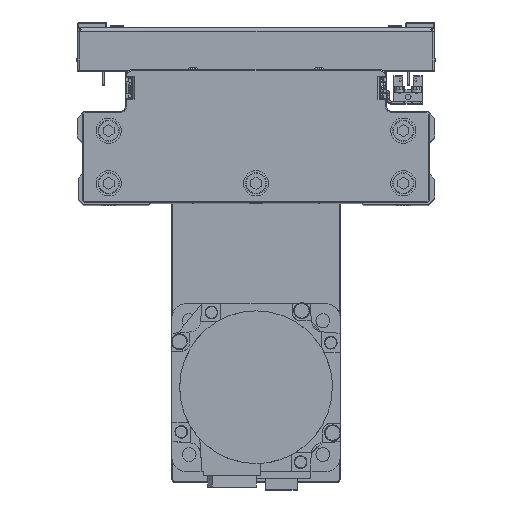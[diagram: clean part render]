
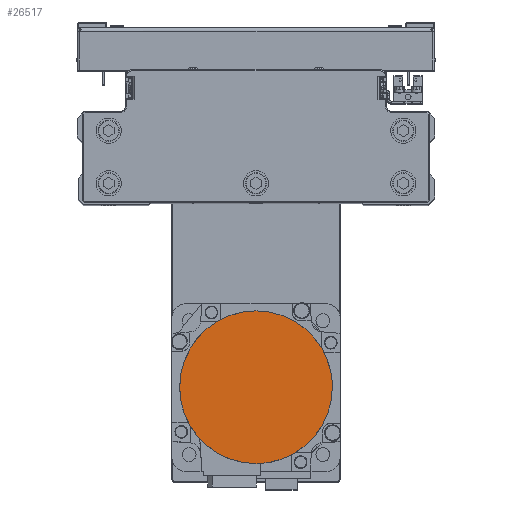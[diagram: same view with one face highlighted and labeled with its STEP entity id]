
A CAD part, top view. The second image highlights one B-rep face of the part: STEP entity #26517.
In plain terms, the highlighted planar face has unit normal (0, 0, 1) as drawn and (0, 0, -1) by its records, which use the part's own axes.
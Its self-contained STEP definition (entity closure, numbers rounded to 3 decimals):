
#445 = CARTESIAN_POINT ( 'NONE',  ( 0., 0., -122.2 ) ) ;
#883 = EDGE_LOOP ( 'NONE', ( #26571, #30147, #39719, #35261 ) ) ;
#913 = B_SPLINE_CURVE_WITH_KNOTS ( 'NONE', 3,
 ( #2326, #15861, #29423, #42954, #12533, #26100, #39620, #9210, #22760, #36295, #5886, #19420, #32958, #2545, #16090, #29647, #43170, #12743 ),
 .UNSPECIFIED., .F., .F.,
 ( 4, 2, 2, 2, 2, 2, 2, 2, 4 ),
 ( 0., 0.125, 0.25, 0.375, 0.5, 0.625, 0.75, 0.875, 1. ),
 .UNSPECIFIED. ) ;
#1223 = CIRCLE ( 'NONE', #6900, 36.3 ) ;
#1296 = CARTESIAN_POINT ( 'NONE',  ( -11.696, 34.446, -122.2 ) ) ;
#1508 = CARTESIAN_POINT ( 'NONE',  ( -36.3, 0., -122.2 ) ) ;
#1871 = CARTESIAN_POINT ( 'NONE',  ( 0., 0., -122.2 ) ) ;
#2326 = CARTESIAN_POINT ( 'NONE',  ( -36.3, 0., -122.2 ) ) ;
#2545 = CARTESIAN_POINT ( 'NONE',  ( -11.696, -34.446, -122.2 ) ) ;
#2666 = DIRECTION ( 'NONE',  ( 1., 0., 0. ) ) ;
#4636 = CARTESIAN_POINT ( 'NONE',  ( -2.376, 36.3, -122.2 ) ) ;
#4855 = CARTESIAN_POINT ( 'NONE',  ( -35.139, 9.412, -122.2 ) ) ;
#5886 = CARTESIAN_POINT ( 'NONE',  ( -22.143, -28.862, -122.2 ) ) ;
#6000 = PLANE ( 'NONE',  #38117 ) ;
#6900 = AXIS2_PLACEMENT_3D ( 'NONE', #445, #13977, #27538 ) ;
#7125 = VERTEX_POINT ( 'NONE', #12939 ) ;
#8183 = CARTESIAN_POINT ( 'NONE',  ( -31.502, 18.192, -122.2 ) ) ;
#8567 = EDGE_CURVE ( 'NONE', #9942, #13825, #913, .T. ) ;
#8716 = VERTEX_POINT ( 'NONE', #23848 ) ;
#9210 = CARTESIAN_POINT ( 'NONE',  ( -28.862, -22.143, -122.2 ) ) ;
#9942 = VERTEX_POINT ( 'NONE', #33405 ) ;
#10994 = EDGE_CURVE ( 'NONE', #8716, #9942, #16682, .T. ) ;
#11501 = CARTESIAN_POINT ( 'NONE',  ( -23.988, 27.348, -122.2 ) ) ;
#12533 = CARTESIAN_POINT ( 'NONE',  ( -34.446, -11.696, -122.2 ) ) ;
#12743 = CARTESIAN_POINT ( 'NONE',  ( 0., -36.3, -122.2 ) ) ;
#12939 = CARTESIAN_POINT ( 'NONE',  ( 36.3, 0., -122.2 ) ) ;
#13825 = VERTEX_POINT ( 'NONE', #25292 ) ;
#13977 = DIRECTION ( 'NONE',  ( 0., 0., 1. ) ) ;
#14833 = CARTESIAN_POINT ( 'NONE',  ( -16.086, 32.628, -122.2 ) ) ;
#15416 = DIRECTION ( 'NONE',  ( 0., 0., 1. ) ) ;
#15861 = CARTESIAN_POINT ( 'NONE',  ( -36.3, -2.376, -122.2 ) ) ;
#16090 = CARTESIAN_POINT ( 'NONE',  ( -9.412, -35.139, -122.2 ) ) ;
#16682 = B_SPLINE_CURVE_WITH_KNOTS ( 'NONE', 3,
 ( #35052, #4636, #18176, #31718, #1296, #14833, #28386, #41916, #11501, #25061, #38590, #8183, #21737, #35279, #4855, #18392, #31931, #1508 ),
 .UNSPECIFIED., .F., .F.,
 ( 4, 2, 2, 2, 2, 2, 2, 2, 4 ),
 ( 0., 0.125, 0.25, 0.375, 0.5, 0.625, 0.75, 0.875, 1. ),
 .UNSPECIFIED. ) ;
#18176 = CARTESIAN_POINT ( 'NONE',  ( -4.752, 36.066, -122.2 ) ) ;
#18392 = CARTESIAN_POINT ( 'NONE',  ( -36.066, 4.752, -122.2 ) ) ;
#19420 = CARTESIAN_POINT ( 'NONE',  ( -18.192, -31.502, -122.2 ) ) ;
#19539 = CARTESIAN_POINT ( 'NONE',  ( 0., 0., -122.2 ) ) ;
#21737 = CARTESIAN_POINT ( 'NONE',  ( -32.628, 16.086, -122.2 ) ) ;
#22760 = CARTESIAN_POINT ( 'NONE',  ( -27.348, -23.988, -122.2 ) ) ;
#23848 = CARTESIAN_POINT ( 'NONE',  ( 0., 36.3, -122.2 ) ) ;
#23952 = AXIS2_PLACEMENT_3D ( 'NONE', #1871, #15416, #28971 ) ;
#25061 = CARTESIAN_POINT ( 'NONE',  ( -27.348, 23.988, -122.2 ) ) ;
#25292 = CARTESIAN_POINT ( 'NONE',  ( 0., -36.3, -122.2 ) ) ;
#26100 = CARTESIAN_POINT ( 'NONE',  ( -32.628, -16.086, -122.2 ) ) ;
#26517 = ADVANCED_FACE ( 'NONE', ( #36407 ), #6000, .F. ) ;
#26571 = ORIENTED_EDGE ( 'NONE', *, *, #33325, .F. ) ;
#27538 = DIRECTION ( 'NONE',  ( -1., 0., 0. ) ) ;
#28386 = CARTESIAN_POINT ( 'NONE',  ( -18.192, 31.502, -122.2 ) ) ;
#28971 = DIRECTION ( 'NONE',  ( -1., 0., 0. ) ) ;
#29423 = CARTESIAN_POINT ( 'NONE',  ( -36.066, -4.752, -122.2 ) ) ;
#29647 = CARTESIAN_POINT ( 'NONE',  ( -4.752, -36.066, -122.2 ) ) ;
#30147 = ORIENTED_EDGE ( 'NONE', *, *, #8567, .F. ) ;
#31718 = CARTESIAN_POINT ( 'NONE',  ( -9.412, 35.139, -122.2 ) ) ;
#31931 = CARTESIAN_POINT ( 'NONE',  ( -36.3, 2.376, -122.2 ) ) ;
#32958 = CARTESIAN_POINT ( 'NONE',  ( -16.086, -32.628, -122.2 ) ) ;
#33083 = DIRECTION ( 'NONE',  ( 0., 0., 1. ) ) ;
#33325 = EDGE_CURVE ( 'NONE', #13825, #7125, #1223, .T. ) ;
#33405 = CARTESIAN_POINT ( 'NONE',  ( -36.3, 0., -122.2 ) ) ;
#35052 = CARTESIAN_POINT ( 'NONE',  ( 0., 36.3, -122.2 ) ) ;
#35261 = ORIENTED_EDGE ( 'NONE', *, *, #35416, .F. ) ;
#35279 = CARTESIAN_POINT ( 'NONE',  ( -34.446, 11.696, -122.2 ) ) ;
#35416 = EDGE_CURVE ( 'NONE', #7125, #8716, #43088, .T. ) ;
#36295 = CARTESIAN_POINT ( 'NONE',  ( -23.988, -27.348, -122.2 ) ) ;
#36407 = FACE_OUTER_BOUND ( 'NONE', #883, .T. ) ;
#38117 = AXIS2_PLACEMENT_3D ( 'NONE', #19539, #33083, #2666 ) ;
#38590 = CARTESIAN_POINT ( 'NONE',  ( -28.862, 22.143, -122.2 ) ) ;
#39620 = CARTESIAN_POINT ( 'NONE',  ( -31.502, -18.192, -122.2 ) ) ;
#39719 = ORIENTED_EDGE ( 'NONE', *, *, #10994, .F. ) ;
#41916 = CARTESIAN_POINT ( 'NONE',  ( -22.143, 28.862, -122.2 ) ) ;
#42954 = CARTESIAN_POINT ( 'NONE',  ( -35.139, -9.412, -122.2 ) ) ;
#43088 = CIRCLE ( 'NONE', #23952, 36.3 ) ;
#43170 = CARTESIAN_POINT ( 'NONE',  ( -2.376, -36.3, -122.2 ) ) ;
